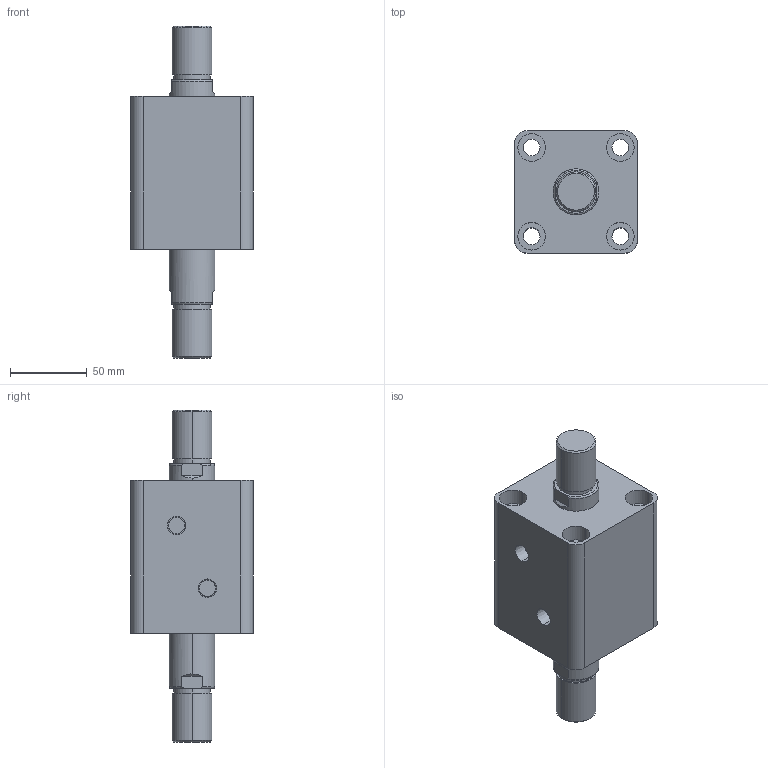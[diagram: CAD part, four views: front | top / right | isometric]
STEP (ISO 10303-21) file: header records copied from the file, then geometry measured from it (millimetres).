
FILE_DESCRIPTION (( 'STEP AP203' ), '1' );
FILE_NAME ('HTB-SW50-25W.STEP', '2019-10-07T09:18:47', ( '微软用户' ), ( '微软中国' ), 'SwSTEP 2.0', 'SolidWorks 2012', '' );
FILE_SCHEMA (( 'CONFIG_CONTROL_DESIGN' ));
Length unit declared in the file: millimetre
Products named in the file (3): HTB-SW50-25W; HTB-SW50-25W活塞杆; HTB-SW50-25掛极
Assembly tree (2 placements, depth 2):
  HTB-SW50-25W
    HTB-SW50-25掛极
    HTB-SW50-25W活塞杆
Bounding box: 80 x 80 x 217 mm (x, y, z)
Volume: 618340.4 mm3; surface area: 97299.3 mm2
Topology: 2 solids, 2 shells, 108 faces, 240 edges, 156 vertices
Faces by surface type: cylinder 52, plane 36, torus 12, cone 8
Entity records: 3449 total; most frequent: CARTESIAN_POINT 629, DIRECTION 586, ORIENTED_EDGE 480, AXIS2_PLACEMENT_3D 249, EDGE_CURVE 240, VERTEX_POINT 156, EDGE_LOOP 138, CIRCLE 136
